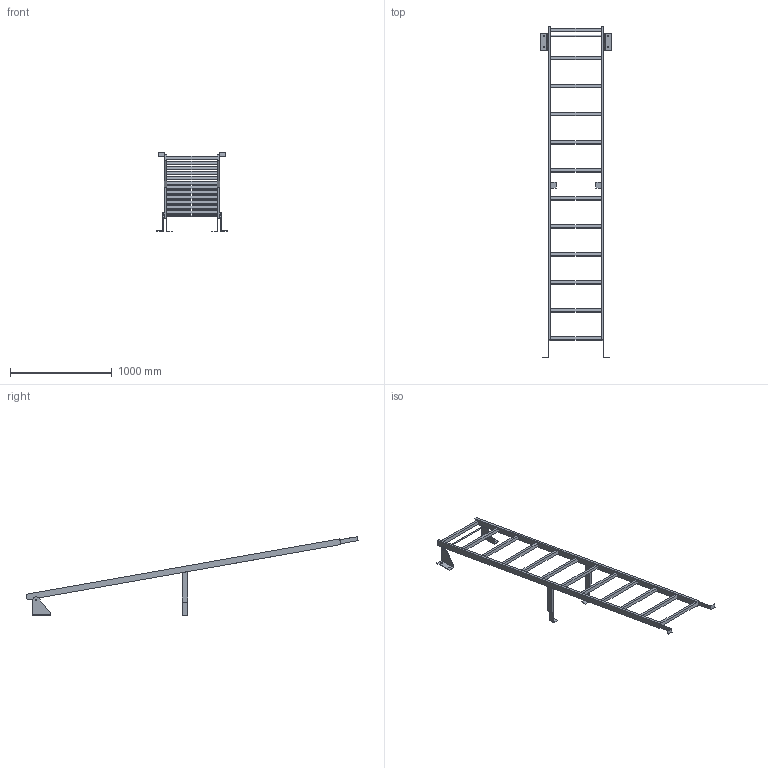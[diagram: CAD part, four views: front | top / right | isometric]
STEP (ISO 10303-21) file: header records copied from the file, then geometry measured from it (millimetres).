
FILE_DESCRIPTION((''),'2;1');
FILE_NAME('52309776','2024-10-17T09:03:13',('wep'),('HUBER SE'),'CREO PARAMETRIC BY PTC INC, 2022162','CREO PARAMETRIC BY PTC INC, 2022162','');
FILE_SCHEMA(('AUTOMOTIVE_DESIGN { 1 0 10303 214 1 1 1 1 }'));
Length unit declared in the file: millimetre
Products named in the file (1): 52309776
Bounding box: 690 x 3262.23 x 772.65 mm (x, y, z)
Volume: 15679209.7 mm3; surface area: 2107034.2 mm2
Topology: 6 solids, 6 shells, 132 faces, 348 edges, 232 vertices
Faces by surface type: plane 116, cylinder 16
Entity records: 4651 total; most frequent: CARTESIAN_POINT 714, ORIENTED_EDGE 696, DIRECTION 644, EDGE_CURVE 348, VECTOR 316, LINE 316, VERTEX_POINT 232, EDGE_LOOP 170
